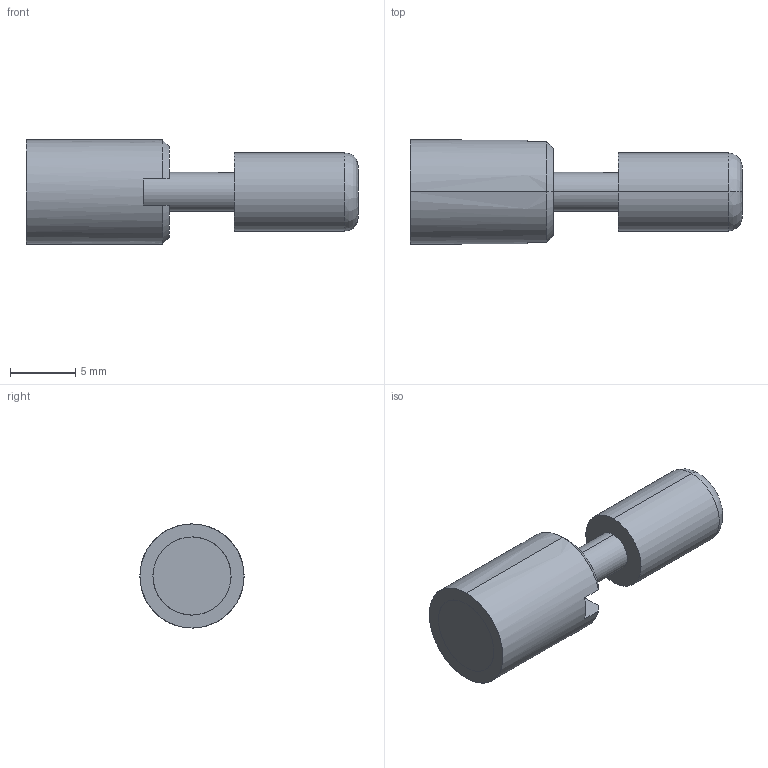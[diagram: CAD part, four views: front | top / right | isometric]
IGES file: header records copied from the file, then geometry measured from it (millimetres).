
Start section: START RECORD GO HERE.
Global section: file name: CF-VPA8.igs; native system: DASSAULT SYSTEMES CATIA V5 R20 - www.3ds.com; preprocessor: CATIA Version 5 Release 20 ; author: Utente; organization: NB04-ASUS; date: 20210324.135821; units: millimetre
Bounding box: 25.5 x 8 x 8 mm (x, y, z)
Surface area: 894.7 mm2 (no closed solid volume)
Topology: 0 solids, 0 shells, 30 faces, 176 edges, 176 vertices
Faces by surface type: revolution 18, plane 12
